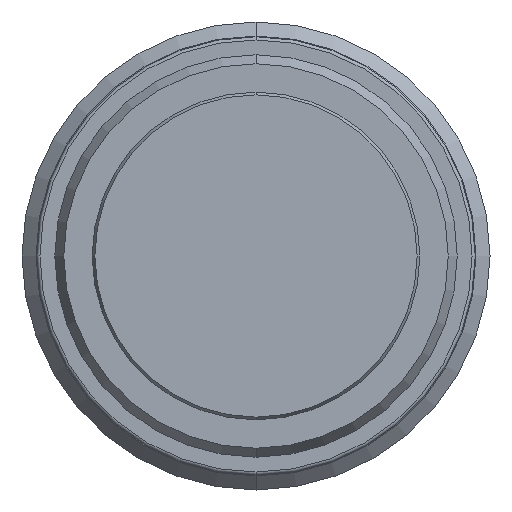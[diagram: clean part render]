
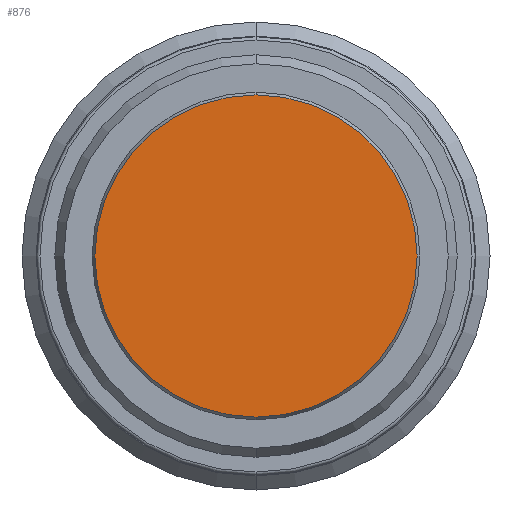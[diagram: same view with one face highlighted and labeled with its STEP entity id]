
A CAD part, front view. The second image highlights one B-rep face of the part: STEP entity #876.
In plain terms, the highlighted planar face has unit normal (0, -1, 0).
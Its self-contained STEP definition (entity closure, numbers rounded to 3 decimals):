
#499=PLANE('',#2387);
#876=ADVANCED_FACE('',(#977),#499,.T.);
#977=FACE_OUTER_BOUND('',#1096,.T.);
#1096=EDGE_LOOP('',(#1589,#1590));
#1589=ORIENTED_EDGE('',*,*,#1896,.F.);
#1590=ORIENTED_EDGE('',*,*,#2003,.F.);
#1690=VERTEX_POINT('',#3299);
#1691=VERTEX_POINT('',#3300);
#1896=EDGE_CURVE('',#1690,#1691,#2096,.T.);
#2003=EDGE_CURVE('',#1691,#1690,#2141,.T.);
#2096=CIRCLE('',#2296,10.327);
#2141=CIRCLE('',#2385,10.327);
#2296=AXIS2_PLACEMENT_3D('',#3298,#2743,#2744);
#2385=AXIS2_PLACEMENT_3D('',#3581,#2963,#2964);
#2387=AXIS2_PLACEMENT_3D('',#3583,#2967,#2968);
#2743=DIRECTION('',(0.,1.,0.));
#2744=DIRECTION('',(0.,0.,1.));
#2963=DIRECTION('',(0.,1.,0.));
#2964=DIRECTION('',(0.,0.,1.));
#2967=DIRECTION('',(0.,-1.,0.));
#2968=DIRECTION('',(0.,0.,1.));
#3298=CARTESIAN_POINT('',(0.,-2.5,0.));
#3299=CARTESIAN_POINT('',(0.,-2.5,10.327));
#3300=CARTESIAN_POINT('',(0.,-2.5,-10.327));
#3581=CARTESIAN_POINT('',(0.,-2.5,0.));
#3583=CARTESIAN_POINT('',(0.,-2.5,0.));
